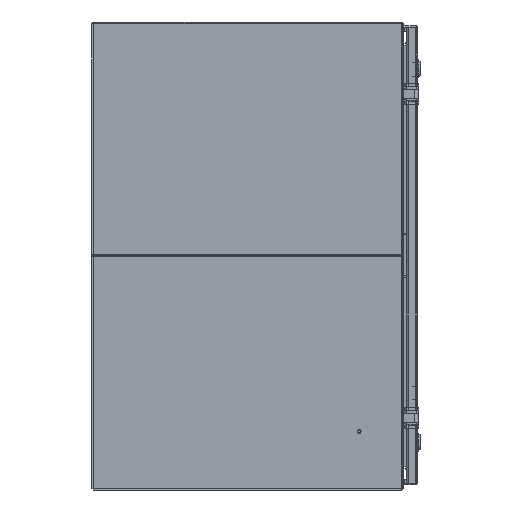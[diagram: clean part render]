
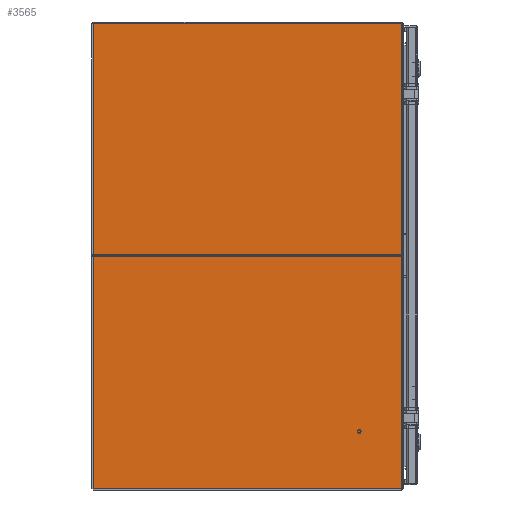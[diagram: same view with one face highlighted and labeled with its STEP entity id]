
A CAD part, left-side view. The second image highlights one B-rep face of the part: STEP entity #3565.
In plain terms, the highlighted planar face has unit normal (-1, 0, 0) as drawn and (0, 0, 1) by its records, which use the part's own axes.
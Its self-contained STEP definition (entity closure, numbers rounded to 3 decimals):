
#3565 = ADVANCED_FACE( '', ( #5533 ), #5534, .F. );
#5533 = FACE_OUTER_BOUND( '', #9667, .T. );
#5534 = PLANE( '', #9668 );
#9667 = EDGE_LOOP( '', ( #16787, #16788, #16789, #16790 ) );
#9668 = AXIS2_PLACEMENT_3D( '', #16791, #16792, #16793 );
#16787 = ORIENTED_EDGE( '', *, *, #19863, .T. );
#16788 = ORIENTED_EDGE( '', *, *, #19921, .T. );
#16789 = ORIENTED_EDGE( '', *, *, #19940, .T. );
#16790 = ORIENTED_EDGE( '', *, *, #19941, .T. );
#16791 = CARTESIAN_POINT( '', ( -328.371, 218.796, 0. ) );
#16792 = DIRECTION( '', ( 0., 0., -1. ) );
#16793 = DIRECTION( '', ( -1., 0., 0. ) );
#19863 = EDGE_CURVE( '', #23045, #23043, #23046, .T. );
#19921 = EDGE_CURVE( '', #23043, #23140, #23142, .T. );
#19940 = EDGE_CURVE( '', #23140, #23166, #23167, .T. );
#19941 = EDGE_CURVE( '', #23166, #23045, #23168, .T. );
#23043 = VERTEX_POINT( '', #28367 );
#23045 = VERTEX_POINT( '', #28370 );
#23046 = LINE( '', #28371, #28372 );
#23140 = VERTEX_POINT( '', #28561 );
#23142 = LINE( '', #28572, #28573 );
#23166 = VERTEX_POINT( '', #28636 );
#23167 = LINE( '', #28637, #28638 );
#23168 = LINE( '', #28639, #28640 );
#28367 = CARTESIAN_POINT( '', ( -328.371, -216.052, 0. ) );
#28370 = CARTESIAN_POINT( '', ( -328.371, 218.796, 0. ) );
#28371 = CARTESIAN_POINT( '', ( -328.371, 218.796, 0. ) );
#28372 = VECTOR( '', #32602, 1000. );
#28561 = CARTESIAN_POINT( '', ( 328.371, -216.052, 0. ) );
#28572 = CARTESIAN_POINT( '', ( -328.371, -216.052, 0. ) );
#28573 = VECTOR( '', #32657, 1000. );
#28636 = CARTESIAN_POINT( '', ( 328.371, 218.796, 0. ) );
#28637 = CARTESIAN_POINT( '', ( 328.371, -218.796, 0. ) );
#28638 = VECTOR( '', #32679, 1000. );
#28639 = CARTESIAN_POINT( '', ( 328.371, 218.796, 0. ) );
#28640 = VECTOR( '', #32680, 1000. );
#32602 = DIRECTION( '', ( 0., -1., 0. ) );
#32657 = DIRECTION( '', ( 1., 0., 0. ) );
#32679 = DIRECTION( '', ( 0., 1., 0. ) );
#32680 = DIRECTION( '', ( -1., 0., 0. ) );
